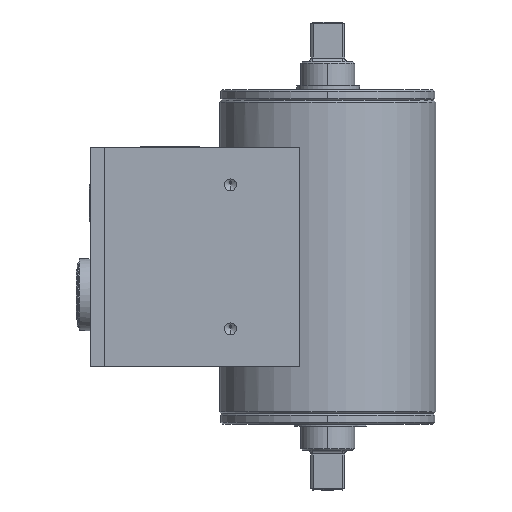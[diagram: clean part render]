
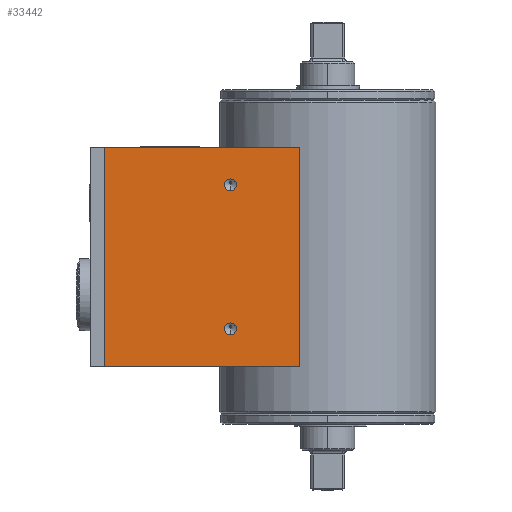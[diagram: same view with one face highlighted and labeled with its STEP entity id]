
A CAD part, left-side view. The second image highlights one B-rep face of the part: STEP entity #33442.
In plain terms, the highlighted planar face has unit normal (1, 0, 0).
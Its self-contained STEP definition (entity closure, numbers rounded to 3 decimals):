
#202 = CARTESIAN_POINT ( 'NONE',  ( -30., 0., 0. ) ) ;
#2236 = FACE_BOUND ( 'NONE', #28234, .T. ) ;
#2532 = ORIENTED_EDGE ( 'NONE', *, *, #3236, .T. ) ;
#3236 = EDGE_CURVE ( 'NONE', #21700, #5294, #3955, .T. ) ;
#3466 = VERTEX_POINT ( 'NONE', #14114 ) ;
#3955 = LINE ( 'NONE', #33603, #13105 ) ;
#4444 = CARTESIAN_POINT ( 'NONE',  ( -30., 27., 10.5 ) ) ;
#4453 = ORIENTED_EDGE ( 'NONE', *, *, #9555, .F. ) ;
#5294 = VERTEX_POINT ( 'NONE', #13194 ) ;
#5661 = CARTESIAN_POINT ( 'NONE',  ( -30., 27., 8.85 ) ) ;
#6465 = AXIS2_PLACEMENT_3D ( 'NONE', #14841, #20619, #28443 ) ;
#6894 = ORIENTED_EDGE ( 'NONE', *, *, #9803, .T. ) ;
#6970 = LINE ( 'NONE', #15700, #7417 ) ;
#7107 = DIRECTION ( 'NONE',  ( 0., 0., 1. ) ) ;
#7417 = VECTOR ( 'NONE', #14720, 1000. ) ;
#8404 = ORIENTED_EDGE ( 'NONE', *, *, #27526, .T. ) ;
#9515 = DIRECTION ( 'NONE',  ( 0., -1., 0. ) ) ;
#9555 = EDGE_CURVE ( 'NONE', #19093, #23697, #33117, .T. ) ;
#9794 = CIRCLE ( 'NONE', #33783, 1.65 ) ;
#9803 = EDGE_CURVE ( 'NONE', #12842, #17602, #9794, .T. ) ;
#10438 = DIRECTION ( 'NONE',  ( -1., 0., 0. ) ) ;
#10544 = CARTESIAN_POINT ( 'NONE',  ( -30., 27., 10.5 ) ) ;
#11458 = CARTESIAN_POINT ( 'NONE',  ( -30., 27., 52.15 ) ) ;
#11675 = ORIENTED_EDGE ( 'NONE', *, *, #26547, .F. ) ;
#11719 = EDGE_LOOP ( 'NONE', ( #32661, #6894 ) ) ;
#12315 = CARTESIAN_POINT ( 'NONE',  ( -30., 27., 50.5 ) ) ;
#12436 = DIRECTION ( 'NONE',  ( 0., 0., 1. ) ) ;
#12842 = VERTEX_POINT ( 'NONE', #5661 ) ;
#12923 = CIRCLE ( 'NONE', #27064, 1.65 ) ;
#13105 = VECTOR ( 'NONE', #9515, 1000. ) ;
#13194 = CARTESIAN_POINT ( 'NONE',  ( -30., 7.681, 61. ) ) ;
#14045 = CIRCLE ( 'NONE', #17295, 1.65 ) ;
#14114 = CARTESIAN_POINT ( 'NONE',  ( -30., 27., 48.85 ) ) ;
#14720 = DIRECTION ( 'NONE',  ( 0., 0., 1. ) ) ;
#14729 = FACE_OUTER_BOUND ( 'NONE', #16688, .T. ) ;
#14841 = CARTESIAN_POINT ( 'NONE',  ( -30., 7.681, 61. ) ) ;
#15036 = CARTESIAN_POINT ( 'NONE',  ( -30., 7.681, 0. ) ) ;
#15075 = PLANE ( 'NONE',  #6465 ) ;
#15700 = CARTESIAN_POINT ( 'NONE',  ( -30., 7.681, 61. ) ) ;
#16688 = EDGE_LOOP ( 'NONE', ( #29745, #2532, #11675, #4453 ) ) ;
#17295 = AXIS2_PLACEMENT_3D ( 'NONE', #12315, #22993, #12436 ) ;
#17602 = VERTEX_POINT ( 'NONE', #21278 ) ;
#17788 = VECTOR ( 'NONE', #20766, 1000. ) ;
#18139 = VECTOR ( 'NONE', #21586, 1000. ) ;
#19093 = VERTEX_POINT ( 'NONE', #26761 ) ;
#20249 = DIRECTION ( 'NONE',  ( -1., 0., 0. ) ) ;
#20372 = CARTESIAN_POINT ( 'NONE',  ( -30., 27., 50.5 ) ) ;
#20619 = DIRECTION ( 'NONE',  ( 1., 0., 0. ) ) ;
#20766 = DIRECTION ( 'NONE',  ( 0., 0., -1. ) ) ;
#20880 = CARTESIAN_POINT ( 'NONE',  ( -30., 62., 61. ) ) ;
#21278 = CARTESIAN_POINT ( 'NONE',  ( -30., 27., 12.15 ) ) ;
#21433 = EDGE_CURVE ( 'NONE', #25233, #3466, #14045, .T. ) ;
#21512 = EDGE_CURVE ( 'NONE', #21700, #19093, #27345, .T. ) ;
#21584 = AXIS2_PLACEMENT_3D ( 'NONE', #4444, #23033, #7107 ) ;
#21586 = DIRECTION ( 'NONE',  ( 0., -1., 0. ) ) ;
#21700 = VERTEX_POINT ( 'NONE', #29387 ) ;
#22993 = DIRECTION ( 'NONE',  ( -1., 0., 0. ) ) ;
#23033 = DIRECTION ( 'NONE',  ( -1., 0., 0. ) ) ;
#23697 = VERTEX_POINT ( 'NONE', #15036 ) ;
#25233 = VERTEX_POINT ( 'NONE', #11458 ) ;
#26537 = ORIENTED_EDGE ( 'NONE', *, *, #21433, .T. ) ;
#26547 = EDGE_CURVE ( 'NONE', #23697, #5294, #6970, .T. ) ;
#26761 = CARTESIAN_POINT ( 'NONE',  ( -30., 62., 0. ) ) ;
#27064 = AXIS2_PLACEMENT_3D ( 'NONE', #20372, #20249, #33771 ) ;
#27146 = CIRCLE ( 'NONE', #21584, 1.65 ) ;
#27345 = LINE ( 'NONE', #20880, #17788 ) ;
#27526 = EDGE_CURVE ( 'NONE', #3466, #25233, #12923, .T. ) ;
#28234 = EDGE_LOOP ( 'NONE', ( #26537, #8404 ) ) ;
#28443 = DIRECTION ( 'NONE',  ( 0., 0., -1. ) ) ;
#29158 = DIRECTION ( 'NONE',  ( 0., 0., 1. ) ) ;
#29387 = CARTESIAN_POINT ( 'NONE',  ( -30., 62., 61. ) ) ;
#29745 = ORIENTED_EDGE ( 'NONE', *, *, #21512, .F. ) ;
#31382 = FACE_BOUND ( 'NONE', #11719, .T. ) ;
#32661 = ORIENTED_EDGE ( 'NONE', *, *, #32693, .T. ) ;
#32693 = EDGE_CURVE ( 'NONE', #17602, #12842, #27146, .T. ) ;
#33117 = LINE ( 'NONE', #202, #18139 ) ;
#33442 = ADVANCED_FACE ( 'NONE', ( #2236, #31382, #14729 ), #15075, .T. ) ;
#33603 = CARTESIAN_POINT ( 'NONE',  ( -30., 7.681, 61. ) ) ;
#33771 = DIRECTION ( 'NONE',  ( 0., 0., 1. ) ) ;
#33783 = AXIS2_PLACEMENT_3D ( 'NONE', #10544, #10438, #29158 ) ;
